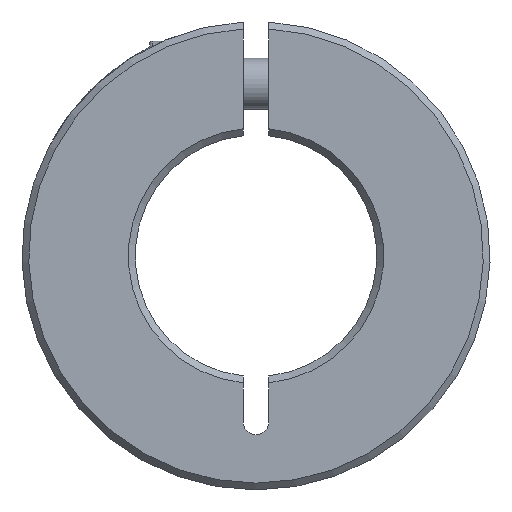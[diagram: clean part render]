
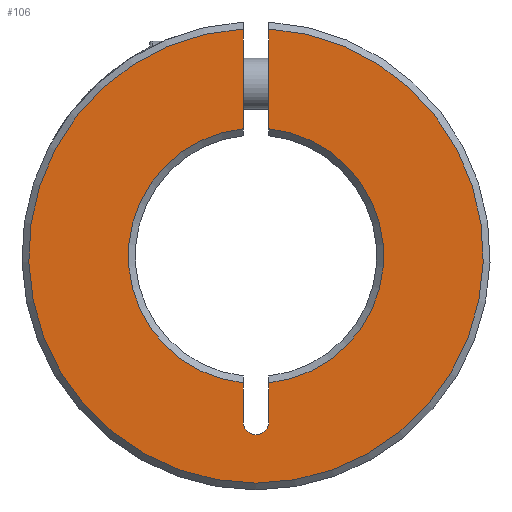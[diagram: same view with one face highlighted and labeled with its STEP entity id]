
A CAD part, left-side view. The second image highlights one B-rep face of the part: STEP entity #106.
In plain terms, the highlighted planar face has unit normal (-1, 0, 0).
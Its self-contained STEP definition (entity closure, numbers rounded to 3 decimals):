
#106 = ADVANCED_FACE( '', ( #180 ), #181, .F. );
#180 = FACE_OUTER_BOUND( '', #257, .T. );
#181 = PLANE( '', #258 );
#257 = EDGE_LOOP( '', ( #490, #491, #492, #493, #494, #495, #496, #497 ) );
#258 = AXIS2_PLACEMENT_3D( '', #498, #499, #500 );
#490 = ORIENTED_EDGE( '', *, *, #578, .T. );
#491 = ORIENTED_EDGE( '', *, *, #545, .T. );
#492 = ORIENTED_EDGE( '', *, *, #554, .T. );
#493 = ORIENTED_EDGE( '', *, *, #536, .F. );
#494 = ORIENTED_EDGE( '', *, *, #532, .T. );
#495 = ORIENTED_EDGE( '', *, *, #541, .T. );
#496 = ORIENTED_EDGE( '', *, *, #516, .T. );
#497 = ORIENTED_EDGE( '', *, *, #580, .T. );
#498 = CARTESIAN_POINT( '', ( -7.5, 0., 0. ) );
#499 = DIRECTION( '', ( 1., 0., 0. ) );
#500 = DIRECTION( '', ( 0., 0., -1. ) );
#516 = EDGE_CURVE( '', #609, #607, #610, .T. );
#532 = EDGE_CURVE( '', #626, #639, #641, .T. );
#536 = EDGE_CURVE( '', #626, #647, #648, .T. );
#541 = EDGE_CURVE( '', #639, #609, #654, .T. );
#545 = EDGE_CURVE( '', #661, #659, #662, .T. );
#554 = EDGE_CURVE( '', #659, #647, #673, .T. );
#578 = EDGE_CURVE( '', #714, #661, #715, .T. );
#580 = EDGE_CURVE( '', #607, #714, #717, .T. );
#607 = VERTEX_POINT( '', #734 );
#609 = VERTEX_POINT( '', #737 );
#610 = LINE( '', #738, #739 );
#626 = VERTEX_POINT( '', #843 );
#639 = VERTEX_POINT( '', #868 );
#641 = LINE( '', #873, #874 );
#647 = VERTEX_POINT( '', #883 );
#648 = CIRCLE( '', #884, 26.7 );
#654 = CIRCLE( '', #894, 15. );
#659 = VERTEX_POINT( '', #899 );
#661 = VERTEX_POINT( '', #904 );
#662 = CIRCLE( '', #905, 15. );
#673 = LINE( '', #923, #924 );
#714 = VERTEX_POINT( '', #983 );
#715 = LINE( '', #984, #985 );
#717 = CIRCLE( '', #988, 1.5 );
#734 = CARTESIAN_POINT( '', ( -7.5, -1.5, -19.5 ) );
#737 = CARTESIAN_POINT( '', ( -7.5, -1.5, -14.925 ) );
#738 = CARTESIAN_POINT( '', ( -7.5, -1.5, 0. ) );
#739 = VECTOR( '', #998, 1000. );
#843 = CARTESIAN_POINT( '', ( -7.5, -1.5, 26.658 ) );
#868 = CARTESIAN_POINT( '', ( -7.5, -1.5, 14.925 ) );
#873 = CARTESIAN_POINT( '', ( -7.5, -1.5, 36.667 ) );
#874 = VECTOR( '', #1014, 1000. );
#883 = CARTESIAN_POINT( '', ( -7.5, 1.5, 26.658 ) );
#884 = AXIS2_PLACEMENT_3D( '', #1021, #1022, #1023 );
#894 = AXIS2_PLACEMENT_3D( '', #1031, #1032, #1033 );
#899 = CARTESIAN_POINT( '', ( -7.5, 1.5, 14.925 ) );
#904 = CARTESIAN_POINT( '', ( -7.5, 1.5, -14.925 ) );
#905 = AXIS2_PLACEMENT_3D( '', #1040, #1041, #1042 );
#923 = CARTESIAN_POINT( '', ( -7.5, 1.5, 0. ) );
#924 = VECTOR( '', #1056, 1000. );
#983 = CARTESIAN_POINT( '', ( -7.5, 1.5, -19.5 ) );
#984 = CARTESIAN_POINT( '', ( -7.5, 1.5, -19.5 ) );
#985 = VECTOR( '', #1090, 1000. );
#988 = AXIS2_PLACEMENT_3D( '', #1092, #1093, #1094 );
#998 = DIRECTION( '', ( 0., 0., -1. ) );
#1014 = DIRECTION( '', ( 0., 0., -1. ) );
#1021 = CARTESIAN_POINT( '', ( -7.5, 0., 0. ) );
#1022 = DIRECTION( '', ( 1., 0., 0. ) );
#1023 = DIRECTION( '', ( 0., 0., -1. ) );
#1031 = CARTESIAN_POINT( '', ( -7.5, 0., 0. ) );
#1032 = DIRECTION( '', ( 1., 0., 0. ) );
#1033 = DIRECTION( '', ( 0., 0., -1. ) );
#1040 = CARTESIAN_POINT( '', ( -7.5, 0., 0. ) );
#1041 = DIRECTION( '', ( 1., 0., 0. ) );
#1042 = DIRECTION( '', ( 0., 0., -1. ) );
#1056 = DIRECTION( '', ( 0., 0., 1. ) );
#1090 = DIRECTION( '', ( 0., 0., 1. ) );
#1092 = CARTESIAN_POINT( '', ( -7.5, 0., -19.5 ) );
#1093 = DIRECTION( '', ( 1., 0., 0. ) );
#1094 = DIRECTION( '', ( 0., 0., -1. ) );
